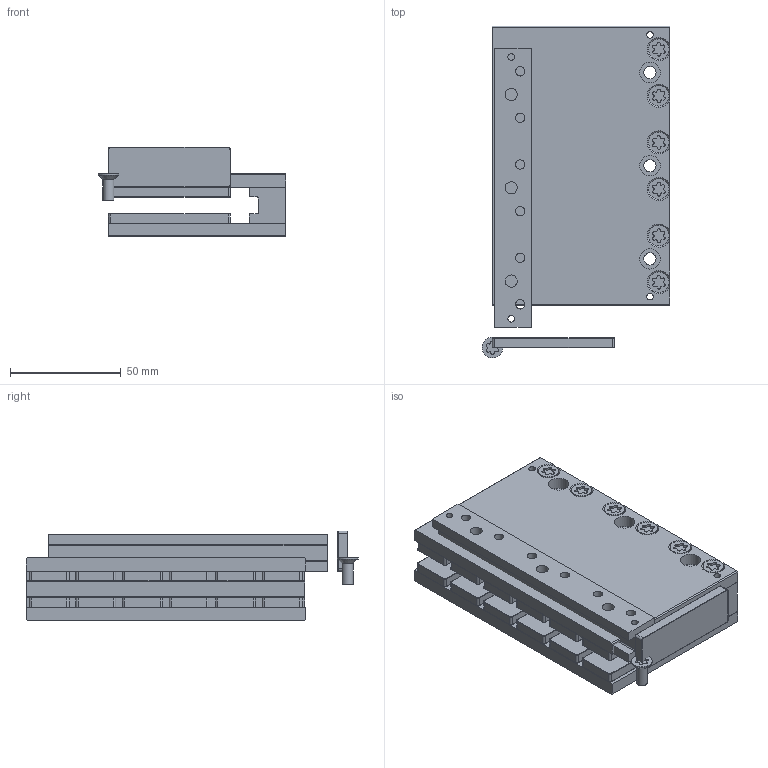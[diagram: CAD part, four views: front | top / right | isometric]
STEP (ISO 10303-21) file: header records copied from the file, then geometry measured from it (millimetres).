
FILE_DESCRIPTION( ( 'STEP AP214' ), '1' );
FILE_NAME( 'ML1500_02-K(126).stp', '2006-09-29T13:39:15', ( ' ' ), ( ' ' ), 'XStep 1.0', ' ', ' ' );
FILE_SCHEMA( ( 'CONFIG_CONTROL_DESIGN) ( )' ) );
Length unit declared in the file: metre
Products named in the file (11): Assem1; Assem2; 4022 363 70173; 4022 363 50121; 4022 363 82573; 2522 203 07034
Bounding box: 84.65 x 149.61 x 40.4 mm (x, y, z)
Volume: 396470.9 mm3; surface area: 182357.7 mm2
Topology: 43 solids, 43 shells, 1196 faces, 2935 edges, 1814 vertices
Faces by surface type: cylinder 540, plane 391, torus 192, cone 73
Full cylindrical faces by diameter (mm): 3 x12, 4.2 x12, 5 x13, 5.5 x30, 9.2 x12, 9.3 x13
Entity records: 7324 total; most frequent: DIRECTION 1340, CARTESIAN_POINT 1180, ORIENTED_EDGE 1062, AXIS2_PLACEMENT_3D 549, EDGE_CURVE 531, VERTEX_POINT 341, EDGE_LOOP 322, CIRCLE 283
